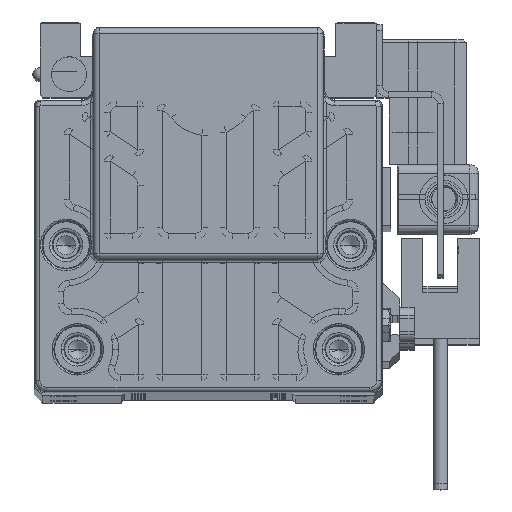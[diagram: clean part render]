
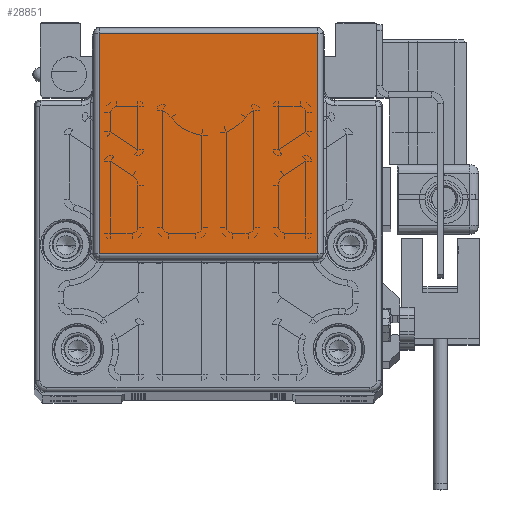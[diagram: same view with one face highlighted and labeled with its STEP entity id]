
A CAD part, top view. The second image highlights one B-rep face of the part: STEP entity #28851.
In plain terms, the highlighted planar face has unit normal (0, 0, 1) as drawn and (0, 0, -1) by its records, which use the part's own axes.
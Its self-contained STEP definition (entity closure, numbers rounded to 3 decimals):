
#972 = EDGE_CURVE ( 'NONE', #62019, #41776, #24850, .T. ) ;
#3929 = DIRECTION ( 'NONE',  ( 1., 0., 0. ) ) ;
#4699 = DIRECTION ( 'NONE',  ( 0., 0., -1. ) ) ;
#5835 = EDGE_LOOP ( 'NONE', ( #69532, #19134, #50910, #41157 ) ) ;
#8357 = VECTOR ( 'NONE', #25405, 1000. ) ;
#12079 = CARTESIAN_POINT ( 'NONE',  ( -18.808, 62.447, -143. ) ) ;
#13531 = VECTOR ( 'NONE', #19809, 1000. ) ;
#14170 = CARTESIAN_POINT ( 'NONE',  ( 19., 24.518, -143. ) ) ;
#14741 = CARTESIAN_POINT ( 'NONE',  ( 19., 62.447, -143. ) ) ;
#14771 = CARTESIAN_POINT ( 'NONE',  ( 18.808, 62.447, -143. ) ) ;
#14897 = CARTESIAN_POINT ( 'NONE',  ( -18.808, 31., -143. ) ) ;
#19134 = ORIENTED_EDGE ( 'NONE', *, *, #37611, .F. ) ;
#19775 = DIRECTION ( 'NONE',  ( 0., 1., 0. ) ) ;
#19809 = DIRECTION ( 'NONE',  ( 1., 0., 0. ) ) ;
#24850 = LINE ( 'NONE', #69442, #64428 ) ;
#25405 = DIRECTION ( 'NONE',  ( 0., -1., 0. ) ) ;
#25761 = VERTEX_POINT ( 'NONE', #12079 ) ;
#25775 = CARTESIAN_POINT ( 'NONE',  ( 19., 24.5, -143. ) ) ;
#25816 = VERTEX_POINT ( 'NONE', #48174 ) ;
#28851 = ADVANCED_FACE ( 'NONE', ( #37015 ), #59832, .T. ) ;
#30359 = CARTESIAN_POINT ( 'NONE',  ( 18.808, 24.518, -143. ) ) ;
#31566 = DIRECTION ( 'NONE',  ( 0., 1., 0. ) ) ;
#37015 = FACE_OUTER_BOUND ( 'NONE', #5835, .T. ) ;
#37611 = EDGE_CURVE ( 'NONE', #25816, #62019, #57653, .T. ) ;
#41157 = ORIENTED_EDGE ( 'NONE', *, *, #59330, .T. ) ;
#41572 = LINE ( 'NONE', #14741, #13531 ) ;
#41776 = VERTEX_POINT ( 'NONE', #14771 ) ;
#42427 = LINE ( 'NONE', #14897, #8357 ) ;
#43298 = EDGE_CURVE ( 'NONE', #25761, #25816, #42427, .T. ) ;
#47799 = VECTOR ( 'NONE', #3929, 1000. ) ;
#48174 = CARTESIAN_POINT ( 'NONE',  ( -18.808, 24.518, -143. ) ) ;
#50910 = ORIENTED_EDGE ( 'NONE', *, *, #43298, .F. ) ;
#57653 = LINE ( 'NONE', #14170, #47799 ) ;
#59330 = EDGE_CURVE ( 'NONE', #25761, #41776, #41572, .T. ) ;
#59832 = PLANE ( 'NONE',  #67918 ) ;
#62019 = VERTEX_POINT ( 'NONE', #30359 ) ;
#64428 = VECTOR ( 'NONE', #19775, 1000. ) ;
#67918 = AXIS2_PLACEMENT_3D ( 'NONE', #25775, #4699, #31566 ) ;
#69442 = CARTESIAN_POINT ( 'NONE',  ( 18.808, 24.5, -143. ) ) ;
#69532 = ORIENTED_EDGE ( 'NONE', *, *, #972, .F. ) ;
